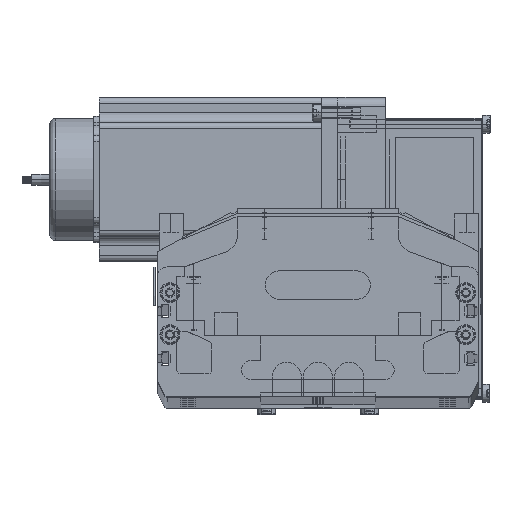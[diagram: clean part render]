
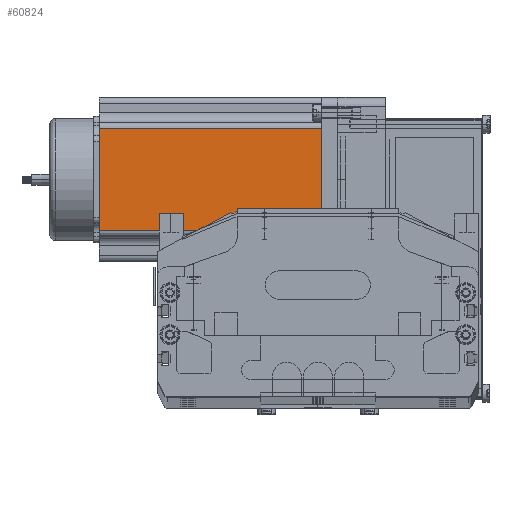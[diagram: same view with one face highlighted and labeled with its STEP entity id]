
A CAD part, top view. The second image highlights one B-rep face of the part: STEP entity #60824.
In plain terms, the highlighted planar face has unit normal (0, 0, 1) as drawn and (0, -1, 0) by its records, which use the part's own axes.
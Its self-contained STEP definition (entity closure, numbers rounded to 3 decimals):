
#60069 = ORIENTED_EDGE ( 'NONE', *, *, #60072, .F. ) ;
#60072 = EDGE_CURVE ( 'NONE', #60074, #60826, #67987, .T. ) ;
#60074 = VERTEX_POINT ( 'NONE', #67980 ) ;
#60105 = EDGE_CURVE ( 'NONE', #60074, #60712, #67948, .T. ) ;
#60114 = ORIENTED_EDGE ( 'NONE', *, *, #60105, .T. ) ;
#60708 = EDGE_CURVE ( 'NONE', #60825, #60826, #69238, .T. ) ;
#60712 = VERTEX_POINT ( 'NONE', #69239 ) ;
#60822 = EDGE_LOOP ( 'NONE', ( #60828, #60827, #60069, #60114 ) ) ;
#60823 = EDGE_CURVE ( 'NONE', #60712, #60825, #69536, .T. ) ;
#60824 = ADVANCED_FACE ( 'NONE', ( #69444 ), #69538, .F. ) ;
#60825 = VERTEX_POINT ( 'NONE', #69523 ) ;
#60826 = VERTEX_POINT ( 'NONE', #69517 ) ;
#60827 = ORIENTED_EDGE ( 'NONE', *, *, #60708, .T. ) ;
#60828 = ORIENTED_EDGE ( 'NONE', *, *, #60823, .T. ) ;
#67941 = DIRECTION ( 'NONE',  ( 0., 0., -1. ) ) ;
#67942 = VECTOR ( 'NONE', #67941, 1000. ) ;
#67947 = CARTESIAN_POINT ( 'NONE',  ( 16.16, 0., 116.5 ) ) ;
#67948 = LINE ( 'NONE', #67947, #67942 ) ;
#67976 = DIRECTION ( 'NONE',  ( 1., 0., 0. ) ) ;
#67977 = VECTOR ( 'NONE', #67976, 1000. ) ;
#67980 = CARTESIAN_POINT ( 'NONE',  ( 16.16, 0., 116.5 ) ) ;
#67986 = CARTESIAN_POINT ( 'NONE',  ( 0., 0., 116.5 ) ) ;
#67987 = LINE ( 'NONE', #67986, #67977 ) ;
#69234 = DIRECTION ( 'NONE',  ( 0., 0., 1. ) ) ;
#69235 = VECTOR ( 'NONE', #69234, 1000. ) ;
#69237 = CARTESIAN_POINT ( 'NONE',  ( 69.74, 0., 116.5 ) ) ;
#69238 = LINE ( 'NONE', #69237, #69235 ) ;
#69239 = CARTESIAN_POINT ( 'NONE',  ( 16.16, 0., 0. ) ) ;
#69444 = FACE_OUTER_BOUND ( 'NONE', #60822, .T. ) ;
#69517 = CARTESIAN_POINT ( 'NONE',  ( 69.74, 0., 116.5 ) ) ;
#69518 = DIRECTION ( 'NONE',  ( 0., 0., 1. ) ) ;
#69523 = CARTESIAN_POINT ( 'NONE',  ( 69.74, 0., 0. ) ) ;
#69527 = AXIS2_PLACEMENT_3D ( 'NONE', #69566, #69554, #69518 ) ;
#69528 = DIRECTION ( 'NONE',  ( 1., 0., 0. ) ) ;
#69529 = VECTOR ( 'NONE', #69528, 1000. ) ;
#69530 = CARTESIAN_POINT ( 'NONE',  ( 0., 0., 0. ) ) ;
#69536 = LINE ( 'NONE', #69530, #69529 ) ;
#69538 = PLANE ( 'NONE',  #69527 ) ;
#69554 = DIRECTION ( 'NONE',  ( 0., 1., 0. ) ) ;
#69566 = CARTESIAN_POINT ( 'NONE',  ( 0., 0., 116.5 ) ) ;
